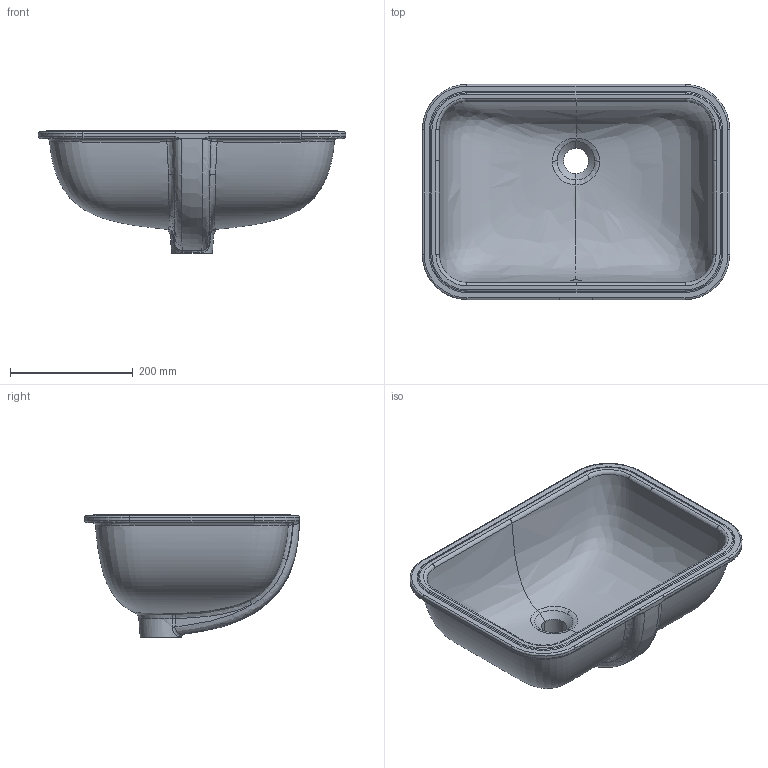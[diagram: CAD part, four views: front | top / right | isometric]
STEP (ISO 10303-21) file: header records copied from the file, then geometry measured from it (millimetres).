
FILE_DESCRIPTION (( 'STEP AP203' ), '1' );
FILE_NAME ('UDLT05035T00.STEP', '2024-08-26T08:35:29', ( '' ), ( '' ), 'SwSTEP 2.0', 'SolidWorks 2023', '' );
FILE_SCHEMA (( 'CONFIG_CONTROL_DESIGN' ));
Products named in the file (1): UDLT05035T00
Bounding box: 500 x 350 x 200 mm (x, y, z)
Volume: 3634207.2 mm3; surface area: 609835.9 mm2
Topology: 1 solids, 1 shells, 111 faces, 270 edges, 157 vertices
Faces by surface type: bspline 101, plane 9, cylinder 1
Full cylindrical faces by diameter (mm): 18 x1
Entity records: 84366 total; most frequent: CARTESIAN_POINT 82553, ORIENTED_EDGE 528, EDGE_CURVE 264, B_SPLINE_CURVE_WITH_KNOTS 199, VERTEX_POINT 157, EDGE_LOOP 115, FACE_OUTER_BOUND 112, ADVANCED_FACE 111
